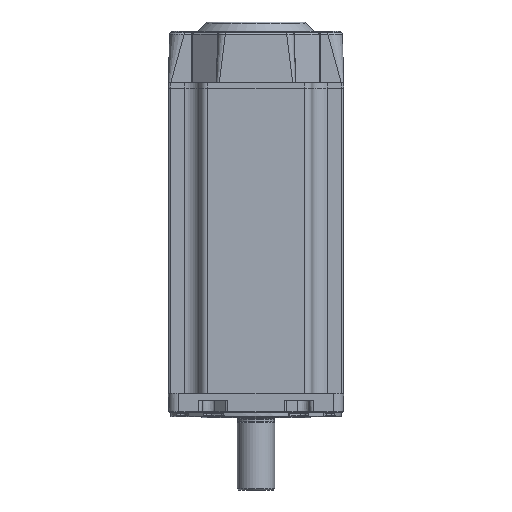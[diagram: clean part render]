
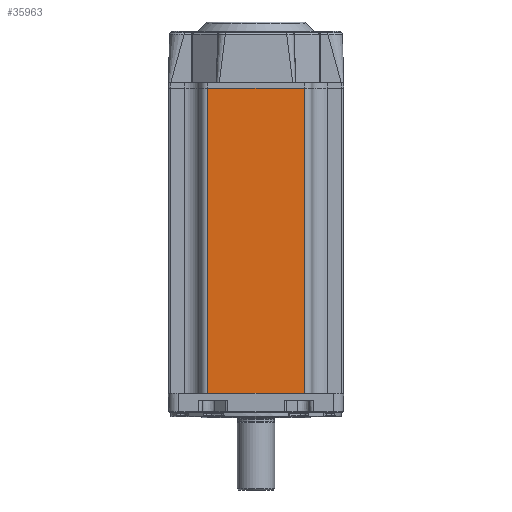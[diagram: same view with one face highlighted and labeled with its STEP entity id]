
A CAD part, front view. The second image highlights one B-rep face of the part: STEP entity #35963.
In plain terms, the highlighted planar face has unit normal (0, -1, 0).
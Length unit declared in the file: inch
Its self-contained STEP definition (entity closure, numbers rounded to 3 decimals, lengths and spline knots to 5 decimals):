
#33760=CARTESIAN_POINT('',(1.2275,-2.225,-7.75));
#33761=VERTEX_POINT('',#33760);
#33768=CARTESIAN_POINT('',(-1.2275,-2.225,-7.75));
#33769=VERTEX_POINT('',#33768);
#33770=CARTESIAN_POINT('',(-1.2275,-2.225,-7.75));
#33771=DIRECTION('',(1.0,0.0,0.0));
#33772=VECTOR('',#33771,2.455);
#33773=LINE('',#33770,#33772);
#33774=EDGE_CURVE('',#33769,#33761,#33773,.T.);
#35880=CARTESIAN_POINT('',(1.2275,-2.225,0.));
#35881=VERTEX_POINT('',#35880);
#35889=CARTESIAN_POINT('',(1.2275,-2.225,0.));
#35890=DIRECTION('',(0.0,0.0,-1.0));
#35891=VECTOR('',#35890,7.75);
#35892=LINE('',#35889,#35891);
#35893=EDGE_CURVE('',#35881,#33761,#35892,.T.);
#35940=CARTESIAN_POINT('',(1.415,-2.225,0.0));
#35941=DIRECTION('',(0.0,-1.0,0.0));
#35942=DIRECTION('',(0.0,0.0,-1.0));
#35943=AXIS2_PLACEMENT_3D('',#35940,#35941,#35942);
#35944=PLANE('',#35943);
#35945=CARTESIAN_POINT('',(-1.2275,-2.225,0.));
#35946=VERTEX_POINT('',#35945);
#35947=CARTESIAN_POINT('',(1.2275,-2.225,0.));
#35948=DIRECTION('',(-1.0,0.0,0.0));
#35949=VECTOR('',#35948,2.455);
#35950=LINE('',#35947,#35949);
#35951=EDGE_CURVE('',#35881,#35946,#35950,.T.);
#35952=ORIENTED_EDGE('',*,*,#35951,.T.);
#35953=CARTESIAN_POINT('',(-1.2275,-2.225,-7.75));
#35954=DIRECTION('',(0.0,0.0,1.0));
#35955=VECTOR('',#35954,7.75);
#35956=LINE('',#35953,#35955);
#35957=EDGE_CURVE('',#33769,#35946,#35956,.T.);
#35958=ORIENTED_EDGE('',*,*,#35957,.F.);
#35959=ORIENTED_EDGE('',*,*,#33774,.T.);
#35960=ORIENTED_EDGE('',*,*,#35893,.F.);
#35961=EDGE_LOOP('',(#35952,#35958,#35959,#35960));
#35962=FACE_OUTER_BOUND('',#35961,.T.);
#35963=ADVANCED_FACE('',(#35962),#35944,.T.);
